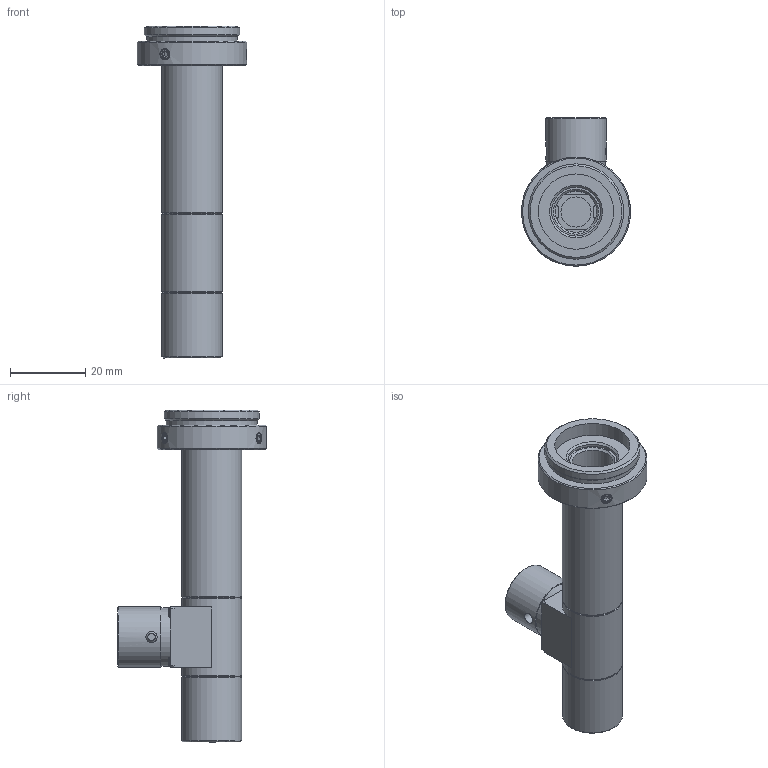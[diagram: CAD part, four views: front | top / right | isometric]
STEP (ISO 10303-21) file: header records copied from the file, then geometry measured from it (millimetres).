
FILE_DESCRIPTION(('STEP AP214'),'1');
FILE_NAME('RTK-6F-65.stp','2026-03-16T07:04:19',(' '),(' '),'Spatial InterOp 3D',' ',' ');
FILE_SCHEMA(('AUTOMOTIVE_DESIGN { 1 0 10303 214 1 1 1 1 }'));
Length unit declared in the file: metre
Products named in the file (2): RTK-6F-65; Component1
Assembly tree (1 placements, depth 2):
  RTK-6F-65
    Component1
Bounding box: 29 x 39.5 x 88.21 mm (x, y, z)
Volume: 14267 mm3; surface area: 12811.7 mm2
Topology: 1 solids, 15 shells, 356 faces, 845 edges, 551 vertices
Faces by surface type: plane 166, cone 96, cylinder 74, sphere 9, torus 8, bspline 3
Full cylindrical faces by diameter (mm): 1.7 x8, 1.8 x4, 2.5 x3, 3 x3, 6.5 x1, 8 x2, 9 x1, 10 x1, 11 x1, 12 x2, 12.7 x1, 13 x2, 13.4 x1, 13.5 x4, 13.7 x1, 14 x2, 14.2 x3, 14.7 x1, 15.5 x1, 16 x6, 20 x1, 24.12 x1, 25.32 x1, 29 x1
Entity records: 12876 total; most frequent: CARTESIAN_POINT 2479, DIRECTION 1604, ORIENTED_EDGE 1334, AXIS2_PLACEMENT_3D 678, EDGE_CURVE 667, EDGE_LOOP 528, VERTEX_POINT 500, FACE_OUTER_BOUND 418
